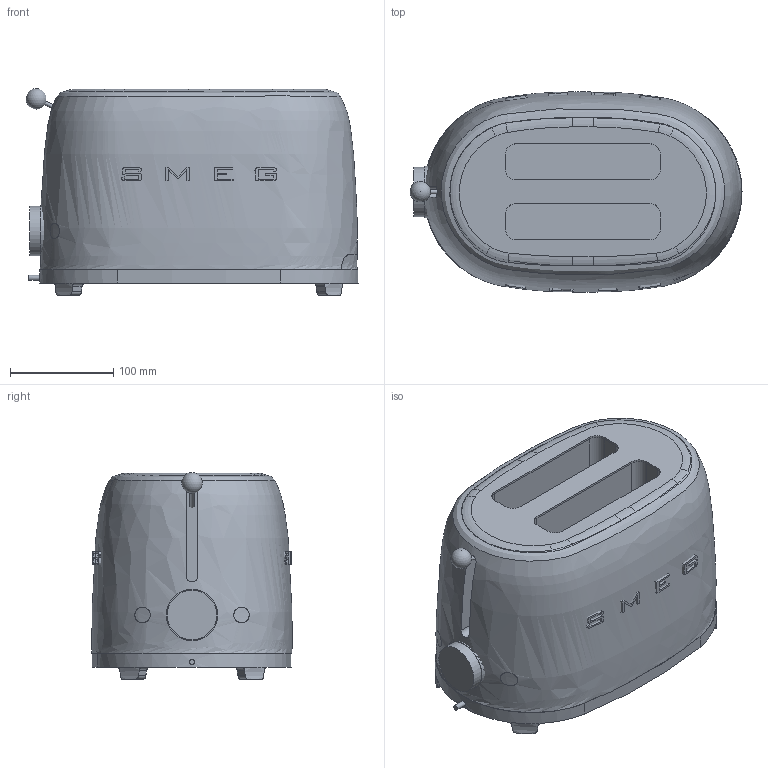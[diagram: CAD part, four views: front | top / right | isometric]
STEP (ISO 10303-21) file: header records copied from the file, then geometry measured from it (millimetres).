
FILE_DESCRIPTION(/* description */ (''),/* implementation_level */ '2;1');
FILE_NAME(/* name */ 'tostapane tsf01 2 fette.stp',/* time_stamp */ '2018-09-20T14:30:35+02:00',/* author */ (''),/* organization */ (''),/* preprocessor_version */ 'ST-DEVELOPER v16',/* originating_system */ 'SIEMENS PLM Software NX 11.0',/* authorisation */ '');
FILE_SCHEMA (('AUTOMOTIVE_DESIGN { 1 0 10303 214 3 1 1 1 }'));
Length unit declared in the file: millimetre
Products named in the file (1): gobb80D85F20cgri
Bounding box: 321.92 x 194.03 x 200.57 mm (x, y, z)
Volume: 8259074.2 mm3; surface area: 508365 mm2
Topology: 18 solids, 18 shells, 264 faces, 660 edges, 439 vertices
Faces by surface type: plane 160, cylinder 60, extrusion 28, torus 10, bspline 5, sphere 1
Full cylindrical faces by diameter (mm): 5 x1, 15 x4, 48 x2, 50 x1
Entity records: 12340 total; most frequent: CARTESIAN_POINT 6399, ORIENTED_EDGE 1274, DIRECTION 1005, EDGE_CURVE 637, VERTEX_POINT 430, AXIS2_PLACEMENT_3D 370, B_SPLINE_CURVE_WITH_KNOTS 290, EDGE_LOOP 288
